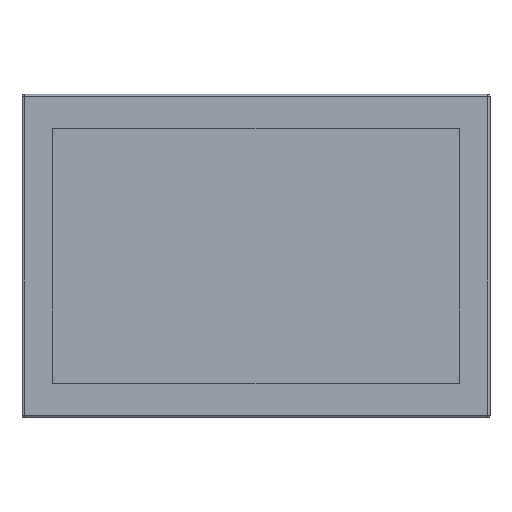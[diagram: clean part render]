
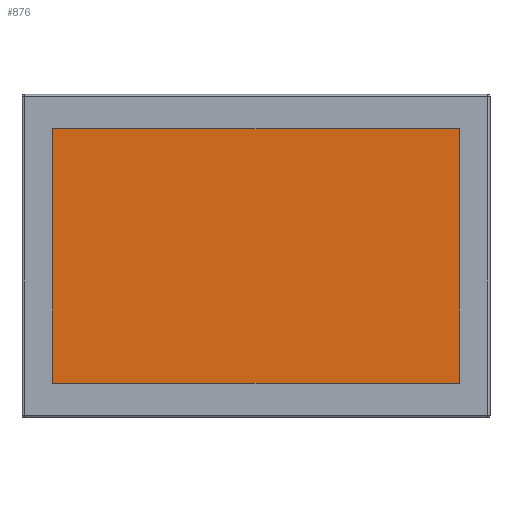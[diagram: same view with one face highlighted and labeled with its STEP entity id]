
A CAD part, top view. The second image highlights one B-rep face of the part: STEP entity #876.
In plain terms, the highlighted planar face has unit normal (0, 0, 1).
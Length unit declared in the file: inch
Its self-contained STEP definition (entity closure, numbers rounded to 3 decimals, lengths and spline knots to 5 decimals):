
#58 = LINE ( 'NONE', #1998, #304 ) ;
#92 = ORIENTED_EDGE ( 'NONE', *, *, #727, .T. ) ;
#240 = DIRECTION ( 'NONE',  ( 1., 0., 0. ) ) ;
#261 = VECTOR ( 'NONE', #1177, 39.37008 ) ;
#304 = VECTOR ( 'NONE', #1073, 39.37008 ) ;
#381 = CARTESIAN_POINT ( 'NONE',  ( 9.34, -5.84, -0.095 ) ) ;
#398 = CARTESIAN_POINT ( 'NONE',  ( -9.34, 5.84, -0.095 ) ) ;
#432 = ORIENTED_EDGE ( 'NONE', *, *, #1777, .T. ) ;
#457 = LINE ( 'NONE', #3000, #261 ) ;
#727 = EDGE_CURVE ( 'NONE', #1935, #2461, #58, .T. ) ;
#827 = ORIENTED_EDGE ( 'NONE', *, *, #3708, .T. ) ;
#876 = ADVANCED_FACE ( 'NONE', ( #1418 ), #3958, .T. ) ;
#964 = DIRECTION ( 'NONE',  ( 0., 0., 1. ) ) ;
#1073 = DIRECTION ( 'NONE',  ( 0., 1., 0. ) ) ;
#1177 = DIRECTION ( 'NONE',  ( -1., 0., 0. ) ) ;
#1401 = EDGE_CURVE ( 'NONE', #3228, #1578, #3928, .T. ) ;
#1418 = FACE_OUTER_BOUND ( 'NONE', #3214, .T. ) ;
#1578 = VERTEX_POINT ( 'NONE', #1717 ) ;
#1717 = CARTESIAN_POINT ( 'NONE',  ( -9.34, -5.84, -0.095 ) ) ;
#1777 = EDGE_CURVE ( 'NONE', #1578, #1935, #3544, .T. ) ;
#1935 = VERTEX_POINT ( 'NONE', #381 ) ;
#1998 = CARTESIAN_POINT ( 'NONE',  ( 9.34, 5.84, -0.095 ) ) ;
#2227 = DIRECTION ( 'NONE',  ( 1., 0., 0. ) ) ;
#2461 = VERTEX_POINT ( 'NONE', #3234 ) ;
#2529 = ORIENTED_EDGE ( 'NONE', *, *, #1401, .T. ) ;
#2545 = CARTESIAN_POINT ( 'NONE',  ( -9.34, 5.84, -0.095 ) ) ;
#2690 = VECTOR ( 'NONE', #240, 39.37008 ) ;
#2715 = AXIS2_PLACEMENT_3D ( 'NONE', #3446, #964, #2227 ) ;
#2749 = VECTOR ( 'NONE', #3362, 39.37008 ) ;
#3000 = CARTESIAN_POINT ( 'NONE',  ( -9.34, 5.84, -0.095 ) ) ;
#3214 = EDGE_LOOP ( 'NONE', ( #2529, #432, #92, #827 ) ) ;
#3228 = VERTEX_POINT ( 'NONE', #2545 ) ;
#3234 = CARTESIAN_POINT ( 'NONE',  ( 9.34, 5.84, -0.095 ) ) ;
#3362 = DIRECTION ( 'NONE',  ( 0., -1., 0. ) ) ;
#3446 = CARTESIAN_POINT ( 'NONE',  ( 0., 0., -0.095 ) ) ;
#3544 = LINE ( 'NONE', #3949, #2690 ) ;
#3708 = EDGE_CURVE ( 'NONE', #2461, #3228, #457, .T. ) ;
#3928 = LINE ( 'NONE', #398, #2749 ) ;
#3949 = CARTESIAN_POINT ( 'NONE',  ( -9.34, -5.84, -0.095 ) ) ;
#3958 = PLANE ( 'NONE',  #2715 ) ;
